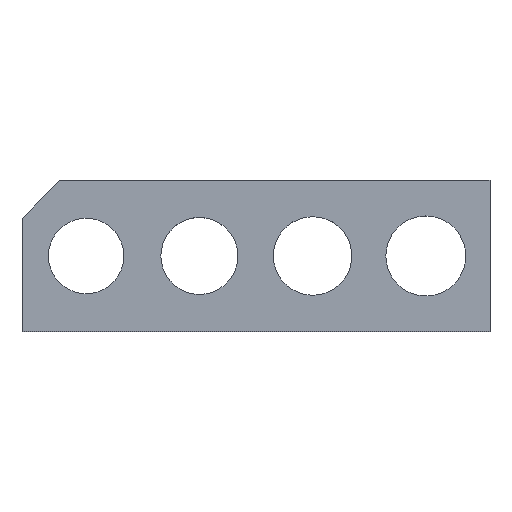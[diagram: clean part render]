
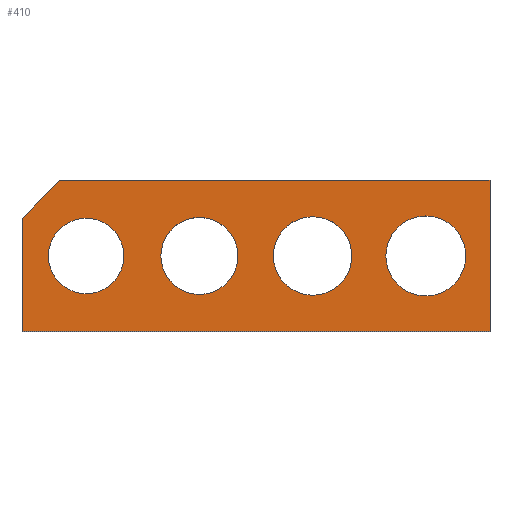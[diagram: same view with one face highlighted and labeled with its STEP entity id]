
A CAD part, top view. The second image highlights one B-rep face of the part: STEP entity #410.
In plain terms, the highlighted planar face has unit normal (0, 0, 1).
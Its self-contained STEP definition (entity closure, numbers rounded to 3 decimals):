
#14 = CARTESIAN_POINT ( 'NONE',  ( -26., 10., 5. ) ) ;
#20 = CARTESIAN_POINT ( 'NONE',  ( -12.6, 0., 5. ) ) ;
#31 = DIRECTION ( 'NONE',  ( 1., 0., 0. ) ) ;
#35 = AXIS2_PLACEMENT_3D ( 'NONE', #307, #438, #174 ) ;
#43 = CARTESIAN_POINT ( 'NONE',  ( 2.3, 0., 5. ) ) ;
#49 = EDGE_CURVE ( 'NONE', #52, #326, #98, .T. ) ;
#52 = VERTEX_POINT ( 'NONE', #287 ) ;
#61 = ORIENTED_EDGE ( 'NONE', *, *, #70, .F. ) ;
#62 = CARTESIAN_POINT ( 'NONE',  ( 7.5, 0., 5. ) ) ;
#66 = FACE_OUTER_BOUND ( 'NONE', #74, .T. ) ;
#70 = EDGE_CURVE ( 'NONE', #248, #544, #451, .T. ) ;
#71 = ORIENTED_EDGE ( 'NONE', *, *, #321, .T. ) ;
#72 = ORIENTED_EDGE ( 'NONE', *, *, #439, .T. ) ;
#74 = EDGE_LOOP ( 'NONE', ( #71, #373, #72, #334, #184 ) ) ;
#79 = DIRECTION ( 'NONE',  ( 0., 0., 1. ) ) ;
#81 = VECTOR ( 'NONE', #137, 1000. ) ;
#82 = FACE_BOUND ( 'NONE', #458, .T. ) ;
#83 = EDGE_CURVE ( 'NONE', #326, #52, #381, .T. ) ;
#87 = AXIS2_PLACEMENT_3D ( 'NONE', #549, #543, #463 ) ;
#89 = CARTESIAN_POINT ( 'NONE',  ( -31., 5., 5. ) ) ;
#98 = CIRCLE ( 'NONE', #104, 5.3 ) ;
#104 = AXIS2_PLACEMENT_3D ( 'NONE', #503, #200, #279 ) ;
#106 = VECTOR ( 'NONE', #557, 1000. ) ;
#111 = DIRECTION ( 'NONE',  ( 0., 0., 1. ) ) ;
#112 = DIRECTION ( 'NONE',  ( 0., 0., 1. ) ) ;
#115 = CARTESIAN_POINT ( 'NONE',  ( 27.8, 0., 5. ) ) ;
#116 = ORIENTED_EDGE ( 'NONE', *, *, #83, .F. ) ;
#122 = EDGE_CURVE ( 'NONE', #211, #419, #243, .T. ) ;
#123 = LINE ( 'NONE', #372, #106 ) ;
#132 = DIRECTION ( 'NONE',  ( 0., 0., 1. ) ) ;
#137 = DIRECTION ( 'NONE',  ( 1., 0., 0. ) ) ;
#153 = DIRECTION ( 'NONE',  ( 0., -1., 0. ) ) ;
#154 = ORIENTED_EDGE ( 'NONE', *, *, #122, .F. ) ;
#157 = FACE_BOUND ( 'NONE', #277, .T. ) ;
#158 = CARTESIAN_POINT ( 'NONE',  ( -26., 10., 5. ) ) ;
#161 = EDGE_LOOP ( 'NONE', ( #429, #364 ) ) ;
#166 = EDGE_CURVE ( 'NONE', #446, #417, #437, .T. ) ;
#167 = VECTOR ( 'NONE', #335, 1000. ) ;
#169 = EDGE_CURVE ( 'NONE', #544, #248, #365, .T. ) ;
#174 = DIRECTION ( 'NONE',  ( 1., 0., 0. ) ) ;
#184 = ORIENTED_EDGE ( 'NONE', *, *, #264, .T. ) ;
#190 = ORIENTED_EDGE ( 'NONE', *, *, #169, .F. ) ;
#196 = LINE ( 'NONE', #331, #167 ) ;
#198 = LINE ( 'NONE', #363, #325 ) ;
#200 = DIRECTION ( 'NONE',  ( 0., 0., 1. ) ) ;
#210 = CIRCLE ( 'NONE', #523, 5. ) ;
#211 = VERTEX_POINT ( 'NONE', #273 ) ;
#228 = DIRECTION ( 'NONE',  ( -0.707, -0.707, 0. ) ) ;
#238 = LINE ( 'NONE', #158, #315 ) ;
#239 = VERTEX_POINT ( 'NONE', #14 ) ;
#240 = VERTEX_POINT ( 'NONE', #404 ) ;
#241 = CARTESIAN_POINT ( 'NONE',  ( 0., 0., 5. ) ) ;
#243 = CIRCLE ( 'NONE', #561, 5.1 ) ;
#248 = VERTEX_POINT ( 'NONE', #282 ) ;
#254 = DIRECTION ( 'NONE',  ( 1., 0., 0. ) ) ;
#256 = DIRECTION ( 'NONE',  ( 1., 0., 0. ) ) ;
#264 = EDGE_CURVE ( 'NONE', #239, #488, #238, .T. ) ;
#272 = VERTEX_POINT ( 'NONE', #357 ) ;
#273 = CARTESIAN_POINT ( 'NONE',  ( -2.4, 0., 5. ) ) ;
#277 = EDGE_LOOP ( 'NONE', ( #476, #154 ) ) ;
#278 = AXIS2_PLACEMENT_3D ( 'NONE', #62, #462, #31 ) ;
#279 = DIRECTION ( 'NONE',  ( 1., 0., 0. ) ) ;
#282 = CARTESIAN_POINT ( 'NONE',  ( 12.7, 0., 5. ) ) ;
#287 = CARTESIAN_POINT ( 'NONE',  ( 17.2, 0., 5. ) ) ;
#288 = DIRECTION ( 'NONE',  ( 1., 0., 0. ) ) ;
#297 = DIRECTION ( 'NONE',  ( 1., 0., 0. ) ) ;
#298 = FACE_BOUND ( 'NONE', #536, .T. ) ;
#307 = CARTESIAN_POINT ( 'NONE',  ( -7.5, 0., 5. ) ) ;
#308 = CIRCLE ( 'NONE', #35, 5.1 ) ;
#314 = CARTESIAN_POINT ( 'NONE',  ( 7.5, 0., 5. ) ) ;
#315 = VECTOR ( 'NONE', #228, 1000. ) ;
#321 = EDGE_CURVE ( 'NONE', #488, #446, #198, .T. ) ;
#325 = VECTOR ( 'NONE', #153, 1000. ) ;
#326 = VERTEX_POINT ( 'NONE', #115 ) ;
#327 = CIRCLE ( 'NONE', #87, 5. ) ;
#331 = CARTESIAN_POINT ( 'NONE',  ( 31., -10., 5. ) ) ;
#334 = ORIENTED_EDGE ( 'NONE', *, *, #389, .T. ) ;
#335 = DIRECTION ( 'NONE',  ( 0., 1., 0. ) ) ;
#340 = CARTESIAN_POINT ( 'NONE',  ( 22.5, 0., 5. ) ) ;
#346 = CARTESIAN_POINT ( 'NONE',  ( -7.5, 0., 5. ) ) ;
#357 = CARTESIAN_POINT ( 'NONE',  ( 31., 10., 5. ) ) ;
#363 = CARTESIAN_POINT ( 'NONE',  ( -31., 5., 5. ) ) ;
#364 = ORIENTED_EDGE ( 'NONE', *, *, #402, .F. ) ;
#365 = CIRCLE ( 'NONE', #500, 5.2 ) ;
#368 = EDGE_CURVE ( 'NONE', #498, #240, #210, .T. ) ;
#372 = CARTESIAN_POINT ( 'NONE',  ( 31., 10., 5. ) ) ;
#373 = ORIENTED_EDGE ( 'NONE', *, *, #166, .T. ) ;
#380 = FACE_BOUND ( 'NONE', #161, .T. ) ;
#381 = CIRCLE ( 'NONE', #455, 5.3 ) ;
#389 = EDGE_CURVE ( 'NONE', #272, #239, #123, .T. ) ;
#402 = EDGE_CURVE ( 'NONE', #240, #498, #327, .T. ) ;
#404 = CARTESIAN_POINT ( 'NONE',  ( -17.5, 0., 5. ) ) ;
#405 = AXIS2_PLACEMENT_3D ( 'NONE', #241, #79, #254 ) ;
#410 = ADVANCED_FACE ( 'NONE', ( #82, #380, #66, #157, #298 ), #553, .T. ) ;
#412 = ORIENTED_EDGE ( 'NONE', *, *, #49, .F. ) ;
#417 = VERTEX_POINT ( 'NONE', #427 ) ;
#419 = VERTEX_POINT ( 'NONE', #20 ) ;
#424 = CARTESIAN_POINT ( 'NONE',  ( -31., -10., 5. ) ) ;
#427 = CARTESIAN_POINT ( 'NONE',  ( 31., -10., 5. ) ) ;
#429 = ORIENTED_EDGE ( 'NONE', *, *, #368, .F. ) ;
#437 = LINE ( 'NONE', #527, #81 ) ;
#438 = DIRECTION ( 'NONE',  ( 0., 0., 1. ) ) ;
#439 = EDGE_CURVE ( 'NONE', #417, #272, #196, .T. ) ;
#444 = DIRECTION ( 'NONE',  ( 0., 0., 1. ) ) ;
#446 = VERTEX_POINT ( 'NONE', #424 ) ;
#451 = CIRCLE ( 'NONE', #278, 5.2 ) ;
#455 = AXIS2_PLACEMENT_3D ( 'NONE', #340, #111, #297 ) ;
#458 = EDGE_LOOP ( 'NONE', ( #190, #61 ) ) ;
#462 = DIRECTION ( 'NONE',  ( 0., 0., 1. ) ) ;
#463 = DIRECTION ( 'NONE',  ( 1., 0., 0. ) ) ;
#472 = CARTESIAN_POINT ( 'NONE',  ( -22.5, 0., 5. ) ) ;
#476 = ORIENTED_EDGE ( 'NONE', *, *, #479, .F. ) ;
#479 = EDGE_CURVE ( 'NONE', #419, #211, #308, .T. ) ;
#488 = VERTEX_POINT ( 'NONE', #89 ) ;
#490 = DIRECTION ( 'NONE',  ( 1., 0., 0. ) ) ;
#498 = VERTEX_POINT ( 'NONE', #521 ) ;
#500 = AXIS2_PLACEMENT_3D ( 'NONE', #314, #132, #490 ) ;
#503 = CARTESIAN_POINT ( 'NONE',  ( 22.5, 0., 5. ) ) ;
#521 = CARTESIAN_POINT ( 'NONE',  ( -27.5, 0., 5. ) ) ;
#523 = AXIS2_PLACEMENT_3D ( 'NONE', #472, #112, #288 ) ;
#527 = CARTESIAN_POINT ( 'NONE',  ( -31., -10., 5. ) ) ;
#536 = EDGE_LOOP ( 'NONE', ( #412, #116 ) ) ;
#543 = DIRECTION ( 'NONE',  ( 0., 0., 1. ) ) ;
#544 = VERTEX_POINT ( 'NONE', #43 ) ;
#549 = CARTESIAN_POINT ( 'NONE',  ( -22.5, 0., 5. ) ) ;
#553 = PLANE ( 'NONE',  #405 ) ;
#557 = DIRECTION ( 'NONE',  ( -1., 0., 0. ) ) ;
#561 = AXIS2_PLACEMENT_3D ( 'NONE', #346, #444, #256 ) ;
